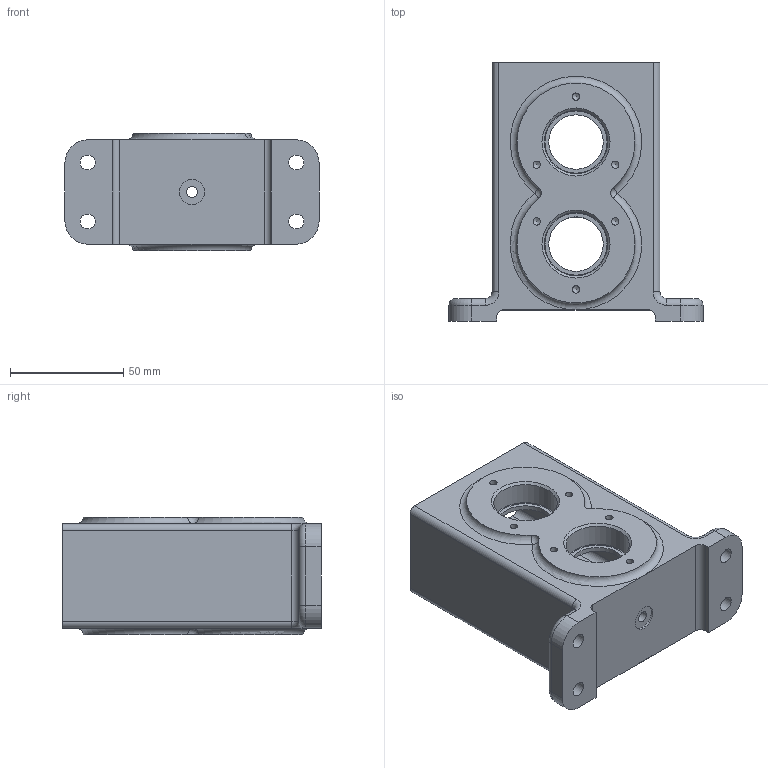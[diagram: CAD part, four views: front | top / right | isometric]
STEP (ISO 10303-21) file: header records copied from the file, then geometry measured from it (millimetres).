
FILE_DESCRIPTION(/* description */ (''),/* implementation_level */ '2;1');
FILE_NAME(/* name */ 'C:\Users\거성\Desktop\611205E1002\611205E1002본체.stp',/* time_stamp */ '2021-12-18T11:06:44+09:00',/* author */ ('거성'),/* organization */ (''),/* preprocessor_version */ 'ST-DEVELOPER v15.2',/* originating_system */ 'Autodesk Inventor 2014',/* authorisation */ '');
FILE_SCHEMA (('AUTOMOTIVE_DESIGN { 1 0 10303 214 3 1 1 }'));
Length unit declared in the file: millimetre
Products named in the file (1): 611205E1002
Bounding box: 112 x 114 x 52 mm (x, y, z)
Volume: 220309.3 mm3; surface area: 57506.3 mm2
Topology: 1 solids, 1 shells, 138 faces, 319 edges, 193 vertices
Faces by surface type: cylinder 62, plane 30, cone 22, torus 16, sphere 8
Full cylindrical faces by diameter (mm): 3.242 x18, 4.917 x1, 6.6 x4, 11 x5, 24 x3, 28 x4, 32 x1
Entity records: 3492 total; most frequent: DIRECTION 678, CARTESIAN_POINT 551, ORIENTED_EDGE 476, AXIS2_PLACEMENT_3D 301, EDGE_CURVE 238, EDGE_LOOP 228, VERTEX_POINT 174, CIRCLE 162
